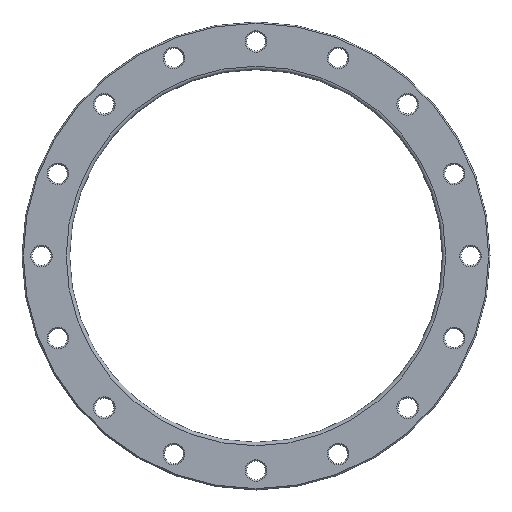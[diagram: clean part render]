
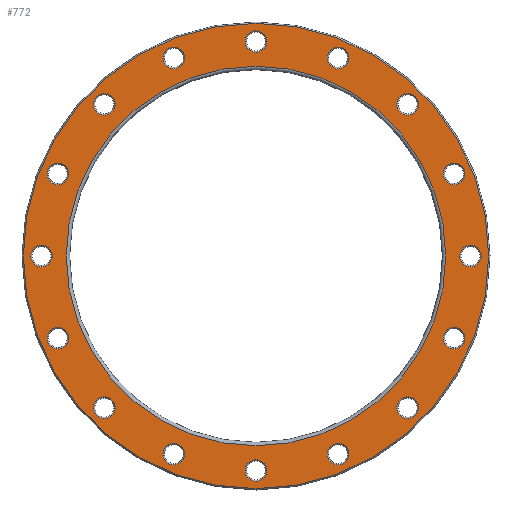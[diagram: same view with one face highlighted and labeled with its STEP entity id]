
A CAD part, front view. The second image highlights one B-rep face of the part: STEP entity #772.
In plain terms, the highlighted planar face has unit normal (0, -1, 0).
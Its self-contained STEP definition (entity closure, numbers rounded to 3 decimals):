
#23=PLANE('',#908);
#170=ORIENTED_EDGE('',*,*,#269,.T.);
#171=ORIENTED_EDGE('',*,*,#270,.T.);
#172=ORIENTED_EDGE('',*,*,#204,.T.);
#173=ORIENTED_EDGE('',*,*,#208,.T.);
#174=ORIENTED_EDGE('',*,*,#212,.T.);
#175=ORIENTED_EDGE('',*,*,#216,.T.);
#176=ORIENTED_EDGE('',*,*,#220,.T.);
#177=ORIENTED_EDGE('',*,*,#224,.T.);
#178=ORIENTED_EDGE('',*,*,#228,.T.);
#179=ORIENTED_EDGE('',*,*,#232,.T.);
#180=ORIENTED_EDGE('',*,*,#236,.T.);
#181=ORIENTED_EDGE('',*,*,#240,.T.);
#182=ORIENTED_EDGE('',*,*,#244,.T.);
#183=ORIENTED_EDGE('',*,*,#248,.T.);
#184=ORIENTED_EDGE('',*,*,#252,.T.);
#185=ORIENTED_EDGE('',*,*,#256,.T.);
#186=ORIENTED_EDGE('',*,*,#260,.T.);
#187=ORIENTED_EDGE('',*,*,#271,.T.);
#204=EDGE_CURVE('',#276,#276,#348,.T.);
#208=EDGE_CURVE('',#280,#280,#352,.T.);
#212=EDGE_CURVE('',#284,#284,#356,.T.);
#216=EDGE_CURVE('',#288,#288,#360,.T.);
#220=EDGE_CURVE('',#292,#292,#364,.T.);
#224=EDGE_CURVE('',#296,#296,#368,.T.);
#228=EDGE_CURVE('',#300,#300,#372,.T.);
#232=EDGE_CURVE('',#304,#304,#376,.T.);
#236=EDGE_CURVE('',#308,#308,#380,.T.);
#240=EDGE_CURVE('',#312,#312,#384,.T.);
#244=EDGE_CURVE('',#316,#316,#388,.T.);
#248=EDGE_CURVE('',#320,#320,#392,.T.);
#252=EDGE_CURVE('',#324,#324,#396,.T.);
#256=EDGE_CURVE('',#328,#328,#400,.T.);
#260=EDGE_CURVE('',#332,#332,#404,.T.);
#269=EDGE_CURVE('',#341,#341,#413,.F.);
#270=EDGE_CURVE('',#342,#342,#414,.T.);
#271=EDGE_CURVE('',#343,#343,#415,.T.);
#276=VERTEX_POINT('',#1187);
#280=VERTEX_POINT('',#1198);
#284=VERTEX_POINT('',#1209);
#288=VERTEX_POINT('',#1220);
#292=VERTEX_POINT('',#1231);
#296=VERTEX_POINT('',#1242);
#300=VERTEX_POINT('',#1253);
#304=VERTEX_POINT('',#1264);
#308=VERTEX_POINT('',#1275);
#312=VERTEX_POINT('',#1286);
#316=VERTEX_POINT('',#1297);
#320=VERTEX_POINT('',#1308);
#324=VERTEX_POINT('',#1319);
#328=VERTEX_POINT('',#1330);
#332=VERTEX_POINT('',#1341);
#341=VERTEX_POINT('',#1364);
#342=VERTEX_POINT('',#1366);
#343=VERTEX_POINT('',#1368);
#348=CIRCLE('',#797,12.5);
#352=CIRCLE('',#804,12.5);
#356=CIRCLE('',#811,12.5);
#360=CIRCLE('',#818,12.5);
#364=CIRCLE('',#825,12.5);
#368=CIRCLE('',#832,12.5);
#372=CIRCLE('',#839,12.5);
#376=CIRCLE('',#846,12.5);
#380=CIRCLE('',#853,12.5);
#384=CIRCLE('',#860,12.5);
#388=CIRCLE('',#867,12.5);
#392=CIRCLE('',#874,12.5);
#396=CIRCLE('',#881,12.5);
#400=CIRCLE('',#888,12.5);
#404=CIRCLE('',#895,12.5);
#413=CIRCLE('',#909,268.5);
#414=CIRCLE('',#910,219.);
#415=CIRCLE('',#911,12.5);
#530=EDGE_LOOP('',(#170));
#531=EDGE_LOOP('',(#171));
#532=EDGE_LOOP('',(#172));
#533=EDGE_LOOP('',(#173));
#534=EDGE_LOOP('',(#174));
#535=EDGE_LOOP('',(#175));
#536=EDGE_LOOP('',(#176));
#537=EDGE_LOOP('',(#177));
#538=EDGE_LOOP('',(#178));
#539=EDGE_LOOP('',(#179));
#540=EDGE_LOOP('',(#180));
#541=EDGE_LOOP('',(#181));
#542=EDGE_LOOP('',(#182));
#543=EDGE_LOOP('',(#183));
#544=EDGE_LOOP('',(#184));
#545=EDGE_LOOP('',(#185));
#546=EDGE_LOOP('',(#186));
#547=EDGE_LOOP('',(#187));
#674=FACE_BOUND('',#530,.T.);
#675=FACE_BOUND('',#531,.T.);
#676=FACE_BOUND('',#532,.T.);
#677=FACE_BOUND('',#533,.T.);
#678=FACE_BOUND('',#534,.T.);
#679=FACE_BOUND('',#535,.T.);
#680=FACE_BOUND('',#536,.T.);
#681=FACE_BOUND('',#537,.T.);
#682=FACE_BOUND('',#538,.T.);
#683=FACE_BOUND('',#539,.T.);
#684=FACE_BOUND('',#540,.T.);
#685=FACE_BOUND('',#541,.T.);
#686=FACE_BOUND('',#542,.T.);
#687=FACE_BOUND('',#543,.T.);
#688=FACE_BOUND('',#544,.T.);
#689=FACE_BOUND('',#545,.T.);
#690=FACE_BOUND('',#546,.T.);
#691=FACE_BOUND('',#547,.T.);
#772=ADVANCED_FACE('',(#674,#675,#676,#677,#678,#679,#680,#681,#682,#683,
#684,#685,#686,#687,#688,#689,#690,#691),#23,.F.);
#797=AXIS2_PLACEMENT_3D('',#1186,#931,#932);
#804=AXIS2_PLACEMENT_3D('',#1197,#945,#946);
#811=AXIS2_PLACEMENT_3D('',#1208,#959,#960);
#818=AXIS2_PLACEMENT_3D('',#1219,#973,#974);
#825=AXIS2_PLACEMENT_3D('',#1230,#987,#988);
#832=AXIS2_PLACEMENT_3D('',#1241,#1001,#1002);
#839=AXIS2_PLACEMENT_3D('',#1252,#1015,#1016);
#846=AXIS2_PLACEMENT_3D('',#1263,#1029,#1030);
#853=AXIS2_PLACEMENT_3D('',#1274,#1043,#1044);
#860=AXIS2_PLACEMENT_3D('',#1285,#1057,#1058);
#867=AXIS2_PLACEMENT_3D('',#1296,#1071,#1072);
#874=AXIS2_PLACEMENT_3D('',#1307,#1085,#1086);
#881=AXIS2_PLACEMENT_3D('',#1318,#1099,#1100);
#888=AXIS2_PLACEMENT_3D('',#1329,#1113,#1114);
#895=AXIS2_PLACEMENT_3D('',#1340,#1127,#1128);
#908=AXIS2_PLACEMENT_3D('',#1362,#1153,#1154);
#909=AXIS2_PLACEMENT_3D('',#1363,#1155,#1156);
#910=AXIS2_PLACEMENT_3D('',#1365,#1157,#1158);
#911=AXIS2_PLACEMENT_3D('',#1367,#1159,#1160);
#931=DIRECTION('',(0.,1.,0.));
#932=DIRECTION('',(0.924,0.,0.383));
#945=DIRECTION('',(0.,1.,0.));
#946=DIRECTION('',(0.707,0.,0.707));
#959=DIRECTION('',(0.,1.,0.));
#960=DIRECTION('',(0.383,0.,0.924));
#973=DIRECTION('',(0.,1.,0.));
#974=DIRECTION('',(0.,0.,1.));
#987=DIRECTION('',(0.,1.,0.));
#988=DIRECTION('',(-0.383,0.,0.924));
#1001=DIRECTION('',(0.,1.,0.));
#1002=DIRECTION('',(-0.707,0.,0.707));
#1015=DIRECTION('',(0.,1.,0.));
#1016=DIRECTION('',(-0.924,0.,0.383));
#1029=DIRECTION('',(0.,1.,0.));
#1030=DIRECTION('',(-1.,0.,0.));
#1043=DIRECTION('',(0.,1.,0.));
#1044=DIRECTION('',(-0.924,0.,-0.383));
#1057=DIRECTION('',(0.,1.,0.));
#1058=DIRECTION('',(-0.707,0.,-0.707));
#1071=DIRECTION('',(0.,1.,0.));
#1072=DIRECTION('',(-0.383,0.,-0.924));
#1085=DIRECTION('',(0.,1.,0.));
#1086=DIRECTION('',(0.,0.,-1.));
#1099=DIRECTION('',(0.,1.,0.));
#1100=DIRECTION('',(0.383,0.,-0.924));
#1113=DIRECTION('',(0.,1.,0.));
#1114=DIRECTION('',(0.707,0.,-0.707));
#1127=DIRECTION('',(0.,1.,0.));
#1128=DIRECTION('',(0.924,0.,-0.383));
#1153=DIRECTION('',(0.,1.,0.));
#1154=DIRECTION('',(0.,0.,1.));
#1155=DIRECTION('',(0.,1.,0.));
#1156=DIRECTION('',(0.,0.,1.));
#1157=DIRECTION('',(0.,1.,0.));
#1158=DIRECTION('',(0.,0.,1.));
#1159=DIRECTION('',(0.,1.,0.));
#1160=DIRECTION('',(1.,0.,0.));
#1186=CARTESIAN_POINT('',(-94.714,0.,228.66));
#1187=CARTESIAN_POINT('',(-83.166,0.,233.444));
#1197=CARTESIAN_POINT('',(-175.009,0.,175.009));
#1198=CARTESIAN_POINT('',(-166.17,0.,183.848));
#1208=CARTESIAN_POINT('',(-228.66,0.,94.714));
#1209=CARTESIAN_POINT('',(-223.877,0.,106.263));
#1219=CARTESIAN_POINT('',(-247.5,0.,0.));
#1220=CARTESIAN_POINT('',(-247.5,0.,12.5));
#1230=CARTESIAN_POINT('',(-228.66,0.,-94.714));
#1231=CARTESIAN_POINT('',(-233.444,0.,-83.166));
#1241=CARTESIAN_POINT('',(-175.009,0.,-175.009));
#1242=CARTESIAN_POINT('',(-183.848,0.,-166.17));
#1252=CARTESIAN_POINT('',(-94.714,0.,-228.66));
#1253=CARTESIAN_POINT('',(-106.263,0.,-223.877));
#1263=CARTESIAN_POINT('',(0.,0.,-247.5));
#1264=CARTESIAN_POINT('',(-12.5,0.,-247.5));
#1274=CARTESIAN_POINT('',(94.714,0.,-228.66));
#1275=CARTESIAN_POINT('',(83.166,0.,-233.444));
#1285=CARTESIAN_POINT('',(175.009,0.,-175.009));
#1286=CARTESIAN_POINT('',(166.17,0.,-183.848));
#1296=CARTESIAN_POINT('',(228.66,0.,-94.714));
#1297=CARTESIAN_POINT('',(223.877,0.,-106.263));
#1307=CARTESIAN_POINT('',(247.5,0.,0.));
#1308=CARTESIAN_POINT('',(247.5,0.,-12.5));
#1318=CARTESIAN_POINT('',(228.66,0.,94.714));
#1319=CARTESIAN_POINT('',(233.444,0.,83.166));
#1329=CARTESIAN_POINT('',(175.009,0.,175.009));
#1330=CARTESIAN_POINT('',(183.848,0.,166.17));
#1340=CARTESIAN_POINT('',(94.714,0.,228.66));
#1341=CARTESIAN_POINT('',(106.263,0.,223.877));
#1362=CARTESIAN_POINT('',(0.,0.,0.));
#1363=CARTESIAN_POINT('',(0.,0.,0.));
#1364=CARTESIAN_POINT('',(0.,0.,268.5));
#1365=CARTESIAN_POINT('',(0.,0.,0.));
#1366=CARTESIAN_POINT('',(0.,0.,219.));
#1367=CARTESIAN_POINT('',(0.,0.,247.5));
#1368=CARTESIAN_POINT('',(12.5,0.,247.5));
